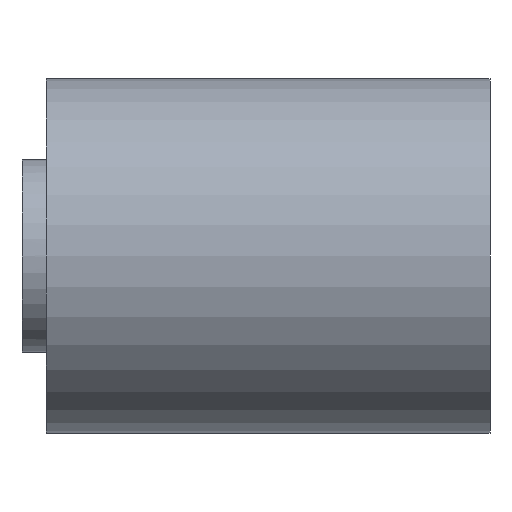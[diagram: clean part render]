
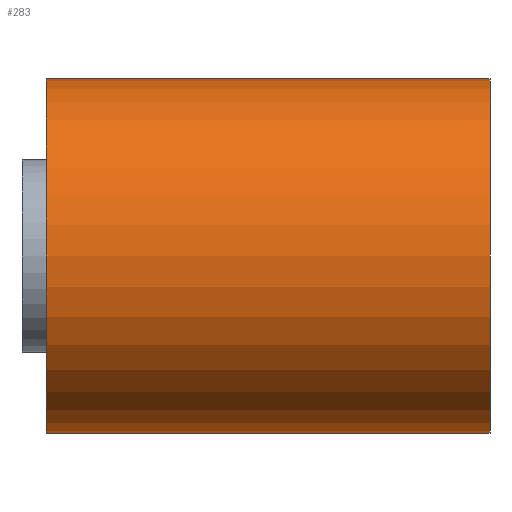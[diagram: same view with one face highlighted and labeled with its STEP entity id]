
A CAD part, front view. The second image highlights one B-rep face of the part: STEP entity #283.
In plain terms, the highlighted cylindrical face has radius 24 mm (diameter 48 mm), a full revolution.
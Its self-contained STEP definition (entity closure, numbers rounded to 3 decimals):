
#186=CYLINDRICAL_SURFACE('',#2149,24.);
#233=FACE_BOUND('',#560,.T.);
#234=FACE_BOUND('',#561,.T.);
#283=ADVANCED_FACE('',(#233,#234),#186,.T.);
#560=EDGE_LOOP('',(#818));
#561=EDGE_LOOP('',(#819));
#710=CIRCLE('',#2147,24.);
#711=CIRCLE('',#2148,24.);
#818=ORIENTED_EDGE('',*,*,#1670,.T.);
#819=ORIENTED_EDGE('',*,*,#1671,.F.);
#1458=VERTEX_POINT('',#3173);
#1459=VERTEX_POINT('',#3175);
#1670=EDGE_CURVE('',#1458,#1458,#710,.T.);
#1671=EDGE_CURVE('',#1459,#1459,#711,.T.);
#2147=AXIS2_PLACEMENT_3D('',#3172,#2475,#2476);
#2148=AXIS2_PLACEMENT_3D('',#3174,#2477,#2478);
#2149=AXIS2_PLACEMENT_3D('',#3176,#2479,#2480);
#2475=DIRECTION('',(-1.,0.,0.));
#2476=DIRECTION('',(0.,0.,1.));
#2477=DIRECTION('',(-1.,0.,0.));
#2478=DIRECTION('',(0.,0.,1.));
#2479=DIRECTION('',(-1.,0.,0.));
#2480=DIRECTION('',(0.,0.,1.));
#3172=CARTESIAN_POINT('',(-33.136,90.58,22.659));
#3173=CARTESIAN_POINT('',(-33.136,90.58,46.659));
#3174=CARTESIAN_POINT('',(-93.136,90.58,22.659));
#3175=CARTESIAN_POINT('',(-93.136,90.58,46.659));
#3176=CARTESIAN_POINT('',(-96.456,90.58,22.659));
